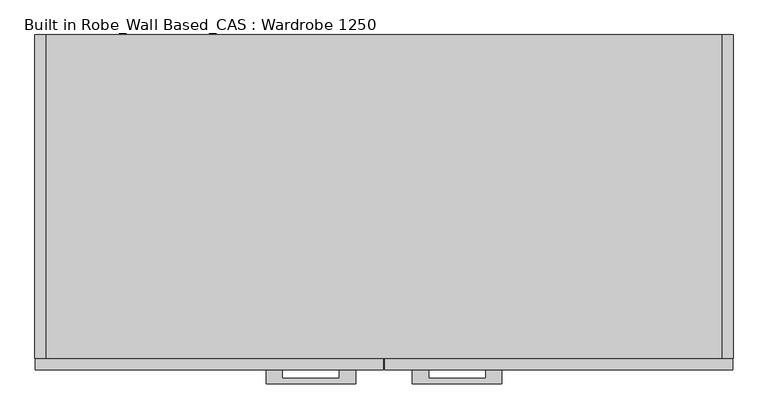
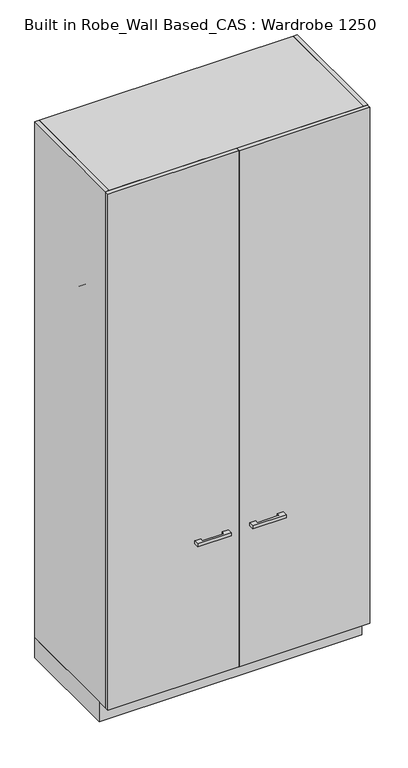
"""IFC4 building model written with IfcOpenShell, lengths in millimetres: furniture geometry, Built in Robe_Wall Based_CAS : Wardrobe 1250."""

from ifc_helpers import new_model, si_unit, point, frame, frame_2d, origin, origin_with_axes, place, context, project, spatial, polyline, circle_curve, trimmed, segment, composite_curve, outline, extrude, source, transform, mapped, element, save


def built_in_robe_wall_based_cas_wardrobe_1250_6314b830(model_context):
    return source(origin(), model_context, "Body", "SweptSolid", [
        extrude(outline(polyline([(750.0, 11.0), (-500.0, 11.0), (-500.0, 541.0), (-480.0, 541.0), (-480.0, 31.0), (730.0, 31.0), (730.0, 541.0), (750.0, 541.0), (750.0, 11.0)])), origin_with_axes(), (0.0, 0.0, 1.0), 100.0),
        extrude(outline(polyline([(176.0, -84.0), (176.0, -59.0), (205.0, -59.0), (205.0, -74.0), (307.0, -74.0), (307.0, -59.0), (336.0, -59.0), (336.0, -84.0), (176.0, -84.0)])), frame((0.0, 0.0, 792.5), z_axis=(0.0, 0.0, 1.0), x_axis=(1.0, 0.0, 0.0)), (0.0, 0.0, 1.0), 15.0),
        extrude(outline(polyline([(749.0, -59.0), (126.0, -59.0), (126.0, -39.0), (749.0, -39.0), (749.0, -59.0)])), frame((0.0, 0.0, 100.0), z_axis=(0.0, 0.0, 1.0), x_axis=(1.0, 0.0, 0.0)), (0.0, 0.0, 1.0), 2599.0),
        extrude(outline(polyline([(74.0, -84.0), (-86.0, -84.0), (-86.0, -59.0), (-57.0, -59.0), (-57.0, -74.0), (45.0, -74.0), (45.0, -59.0), (74.0, -59.0), (74.0, -84.0)])), frame((0.0, 0.0, 792.5), z_axis=(0.0, 0.0, 1.0), x_axis=(1.0, 0.0, 0.0)), (0.0, 0.0, 1.0), 15.0),
        extrude(outline(polyline([(-499.0, -59.0), (-499.0, -39.0), (124.0, -39.0), (124.0, -59.0), (-499.0, -59.0)])), frame((0.0, 0.0, 100.0), z_axis=(0.0, 0.0, 1.0), x_axis=(1.0, 0.0, 0.0)), (0.0, 0.0, 1.0), 2599.0),
        extrude(outline(composite_curve([segment(trimmed(circle_curve(frame_2d((231.0, 2060.0)), 37.5), [point((193.5, 2060.0))], [point((268.5, 2060.0))], False, "CARTESIAN"), True, "CONTINUOUS"), segment(trimmed(circle_curve(frame_2d((231.0, 2060.0)), 37.5), [point((268.5, 2060.0))], [point((193.5, 2060.0))], False, "CARTESIAN"), True, "CONTINUOUS")], self_intersect=False)), frame((-480.0, 0.0, 0.0), z_axis=(1.0, 0.0, 0.0), x_axis=(0.0, 1.0, 0.0)), (0.0, 0.0, 1.0), 10.0),
        extrude(outline(composite_curve([segment(trimmed(circle_curve(frame_2d((231.0, 2060.0)), 10.0), [point((241.0, 2060.0))], [point((221.0, 2060.0))], False, "CARTESIAN"), True, "CONTINUOUS"), segment(trimmed(circle_curve(frame_2d((231.0, 2060.0)), 10.0), [point((221.0, 2060.0))], [point((241.0, 2060.0))], False, "CARTESIAN"), True, "CONTINUOUS")], self_intersect=False)), frame((-470.0, 0.0, 0.0), z_axis=(1.0, 0.0, 0.0), x_axis=(0.0, 1.0, 0.0)), (0.0, 0.0, 1.0), 1190.0),
        extrude(outline(composite_curve([segment(trimmed(circle_curve(frame_2d((231.0, 2060.0)), 37.5), [point((193.5, 2060.0))], [point((268.5, 2060.0))], False, "CARTESIAN"), True, "CONTINUOUS"), segment(trimmed(circle_curve(frame_2d((231.0, 2060.0)), 37.5), [point((268.5, 2060.0))], [point((193.5, 2060.0))], False, "CARTESIAN"), True, "CONTINUOUS")], self_intersect=False)), frame((720.0, 0.0, 0.0), z_axis=(1.0, 0.0, 0.0), x_axis=(0.0, 1.0, 0.0)), (0.0, 0.0, 1.0), 10.0),
        extrude(outline(composite_curve([segment(trimmed(circle_curve(frame_2d((231.0, 1100.0)), 37.5), [point((193.5, 1100.0))], [point((268.5, 1100.0))], False, "CARTESIAN"), True, "CONTINUOUS"), segment(trimmed(circle_curve(frame_2d((231.0, 1100.0)), 37.5), [point((268.5, 1100.0))], [point((193.5, 1100.0))], False, "CARTESIAN"), True, "CONTINUOUS")], self_intersect=False)), frame((-480.0, 0.0, 0.0), z_axis=(1.0, 0.0, 0.0), x_axis=(0.0, 1.0, 0.0)), (0.0, 0.0, 1.0), 10.0),
        extrude(outline(composite_curve([segment(trimmed(circle_curve(frame_2d((231.0, 1100.0)), 10.0), [point((241.0, 1100.0))], [point((221.0, 1100.0))], False, "CARTESIAN"), True, "CONTINUOUS"), segment(trimmed(circle_curve(frame_2d((231.0, 1100.0)), 10.0), [point((221.0, 1100.0))], [point((241.0, 1100.0))], False, "CARTESIAN"), True, "CONTINUOUS")], self_intersect=False)), frame((-470.0, 0.0, 0.0), z_axis=(1.0, 0.0, 0.0), x_axis=(0.0, 1.0, 0.0)), (0.0, 0.0, 1.0), 1190.0),
        extrude(outline(composite_curve([segment(trimmed(circle_curve(frame_2d((231.0, 1100.0)), 37.5), [point((193.5, 1100.0))], [point((268.5, 1100.0))], False, "CARTESIAN"), True, "CONTINUOUS"), segment(trimmed(circle_curve(frame_2d((231.0, 1100.0)), 37.5), [point((268.5, 1100.0))], [point((193.5, 1100.0))], False, "CARTESIAN"), True, "CONTINUOUS")], self_intersect=False)), frame((720.0, 0.0, 0.0), z_axis=(1.0, 0.0, 0.0), x_axis=(0.0, 1.0, 0.0)), (0.0, 0.0, 1.0), 10.0),
        extrude(outline(polyline([(-480.0, 521.0), (730.0, 521.0), (730.0, -39.0), (-480.0, -39.0), (-480.0, 521.0)])), frame((0.0, 0.0, 100.0), z_axis=(0.0, 0.0, 1.0), x_axis=(1.0, 0.0, 0.0)), (0.0, 0.0, 1.0), 20.0),
        extrude(outline(polyline([(-480.0, 541.0), (730.0, 541.0), (730.0, -39.0), (-480.0, -39.0), (-480.0, 541.0)])), frame((0.0, 0.0, 2680.0), z_axis=(0.0, 0.0, 1.0), x_axis=(1.0, 0.0, 0.0)), (0.0, 0.0, 1.0), 20.0),
        extrude(outline(polyline([(-480.0, 541.0), (-480.0, -39.0), (-500.0, -39.0), (-500.0, 541.0), (-480.0, 541.0)])), frame((0.0, 0.0, 100.0), z_axis=(0.0, 0.0, 1.0), x_axis=(1.0, 0.0, 0.0)), (0.0, 0.0, 1.0), 2600.0),
        extrude(outline(polyline([(750.0, 541.0), (750.0, -39.0), (730.0, -39.0), (730.0, 541.0), (750.0, 541.0)])), frame((0.0, 0.0, 100.0), z_axis=(0.0, 0.0, 1.0), x_axis=(1.0, 0.0, 0.0)), (0.0, 0.0, 1.0), 2600.0),
        extrude(outline(polyline([(-480.0, 521.0), (-480.0, 541.0), (730.0, 541.0), (730.0, 521.0), (-480.0, 521.0)])), frame((0.0, 0.0, 100.0), z_axis=(0.0, 0.0, 1.0), x_axis=(1.0, 0.0, 0.0)), (0.0, 0.0, 1.0), 2580.0),
    ])


if __name__ == "__main__":
    model = new_model("IFC4")
    model_context = context("Model", 3, world=origin())
    ifc_project = project(units=[si_unit("LENGTHUNIT", "METRE", prefix="MILLI")], contexts=[model_context])
    site = spatial("IfcSite", under=ifc_project)
    building = spatial("IfcBuilding", under=site)
    placement = place(None, origin())
    built_in_robe_wall_based_cas_wardrobe_1250_shape = built_in_robe_wall_based_cas_wardrobe_1250_6314b830(model_context)
    element("IfcFurniture", 1, ObjectType="Built in Robe_Wall Based_CAS : Wardrobe 1250", at=placement, inside=building, context=model_context, shape_type="MappedRepresentation", body=[
        mapped(built_in_robe_wall_based_cas_wardrobe_1250_shape, transform((0.0, 0.0, 0.0), x_axis=(1.0, 0.0, 0.0), y_axis=(0.0, 1.0, 0.0), z_axis=(0.0, 0.0, 1.0))),
    ])
    save(model, "model.ifc")
